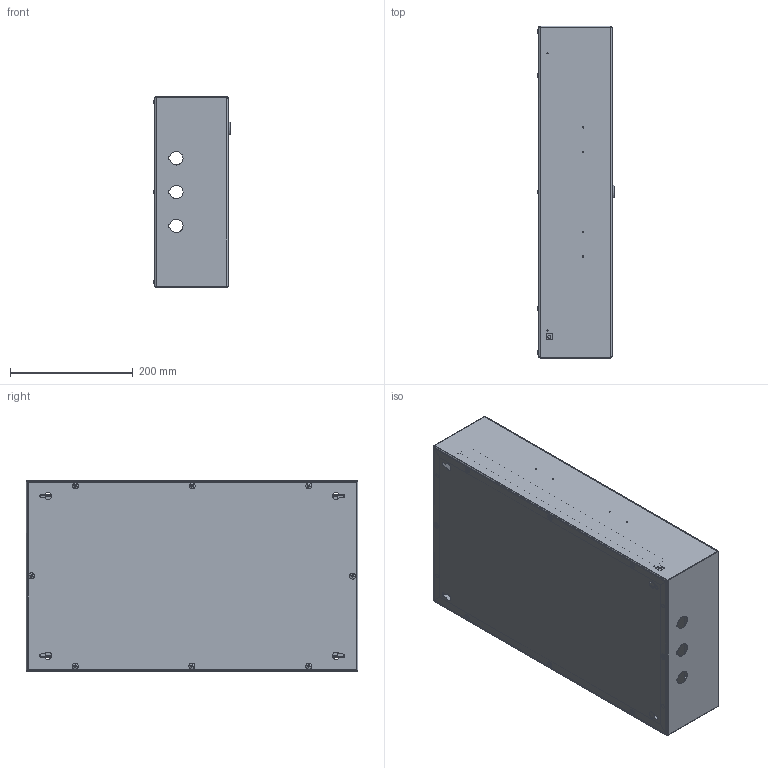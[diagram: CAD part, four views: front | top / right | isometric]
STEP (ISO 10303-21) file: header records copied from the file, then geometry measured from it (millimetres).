
FILE_DESCRIPTION (( 'STEP AP214' ), '1' );
FILE_NAME ('ÙÐí-36-540õ310õ120-IP31-ÓÕË3-ÊÝÀÇ.STEP', '2023-01-24T13:24:18', ( '' ), ( '' ), 'SwSTEP 2.0', 'SolidWorks 2018', '' );
FILE_SCHEMA (( 'AUTOMOTIVE_DESIGN' ));
Length unit declared in the file: millimetre
Products named in the file (1): ÙÐí-36-540õ310õ120-IP31-ÓÕË3-ÊÝÀÇ
Bounding box: 125.16 x 539.7 x 310.3 mm (x, y, z)
Surface area: 1352098.2 mm2 (no closed solid volume)
Topology: 0 solids, 27 shells, 210 faces, 1101 edges, 858 vertices
Faces by surface type: plane 108, cylinder 69, sphere 16, bspline 15, cone 2
Entity records: 14822 total; most frequent: CARTESIAN_POINT 3937, DIRECTION 1813, ORIENTED_EDGE 1393, EDGE_CURVE 1101, VERTEX_POINT 858, AXIS2_PLACEMENT_3D 609, VECTOR 595, LINE 595
